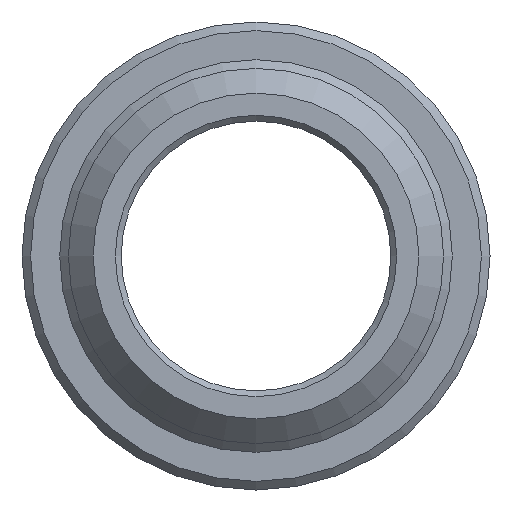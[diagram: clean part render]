
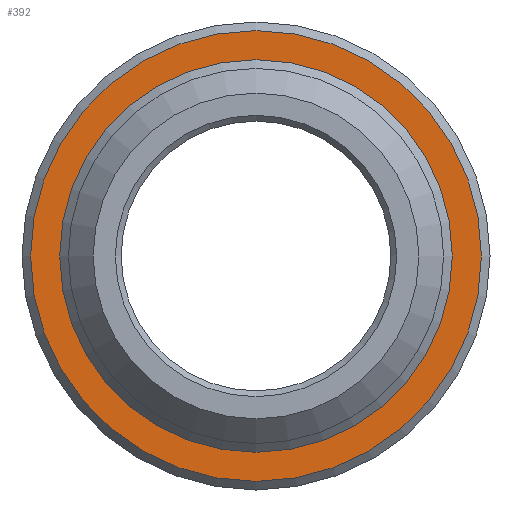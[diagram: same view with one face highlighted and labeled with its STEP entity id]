
A CAD part, front view. The second image highlights one B-rep face of the part: STEP entity #392.
In plain terms, the highlighted planar face has unit normal (0, -1, 0).
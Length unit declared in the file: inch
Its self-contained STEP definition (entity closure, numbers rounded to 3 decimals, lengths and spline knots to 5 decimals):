
#33=FACE_BOUND('',#86,.T.);
#44=PLANE('',#443);
#60=FACE_OUTER_BOUND('',#85,.T.);
#85=EDGE_LOOP('',(#316));
#86=EDGE_LOOP('',(#317));
#158=CIRCLE('',#442,0.34053);
#159=CIRCLE('',#444,0.391);
#195=VERTEX_POINT('',#678);
#196=VERTEX_POINT('',#682);
#243=EDGE_CURVE('',#195,#195,#158,.T.);
#244=EDGE_CURVE('',#196,#196,#159,.T.);
#316=ORIENTED_EDGE('',*,*,#244,.F.);
#317=ORIENTED_EDGE('',*,*,#243,.F.);
#392=ADVANCED_FACE('',(#60,#33),#44,.T.);
#442=AXIS2_PLACEMENT_3D('',#680,#536,#537);
#443=AXIS2_PLACEMENT_3D('',#681,#538,#539);
#444=AXIS2_PLACEMENT_3D('',#683,#540,#541);
#536=DIRECTION('center_axis',(0.,-1.,0.));
#537=DIRECTION('ref_axis',(0.,0.,-1.));
#538=DIRECTION('center_axis',(0.,-1.,0.));
#539=DIRECTION('ref_axis',(0.,0.,-1.));
#540=DIRECTION('center_axis',(0.,1.,0.));
#541=DIRECTION('ref_axis',(0.,0.,1.));
#678=CARTESIAN_POINT('',(0.,4.25,0.34053));
#680=CARTESIAN_POINT('Origin',(0.,4.25,0.));
#681=CARTESIAN_POINT('Origin',(0.,4.25,-0.3375));
#682=CARTESIAN_POINT('',(0.,4.25,-0.391));
#683=CARTESIAN_POINT('Origin',(0.,4.25,0.));
